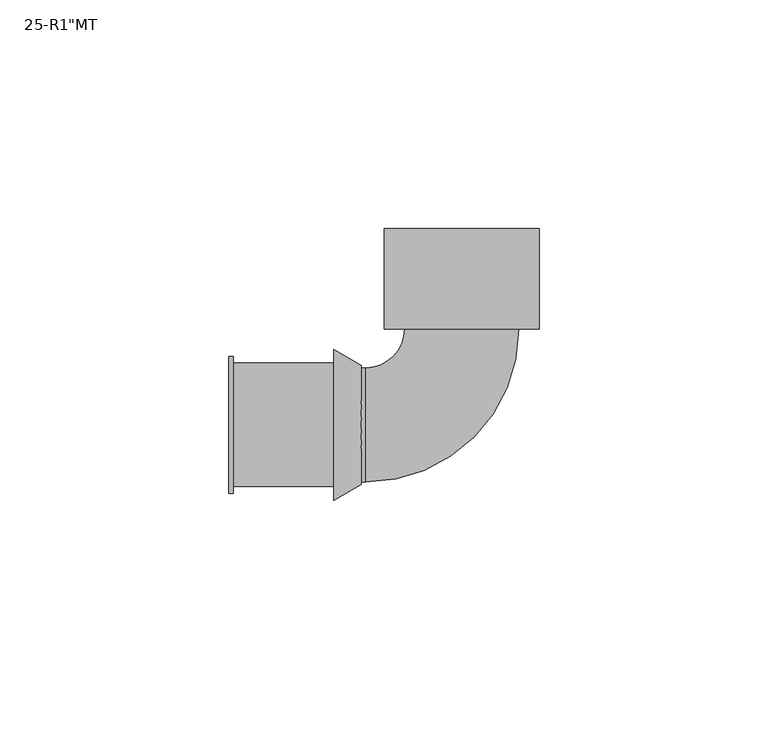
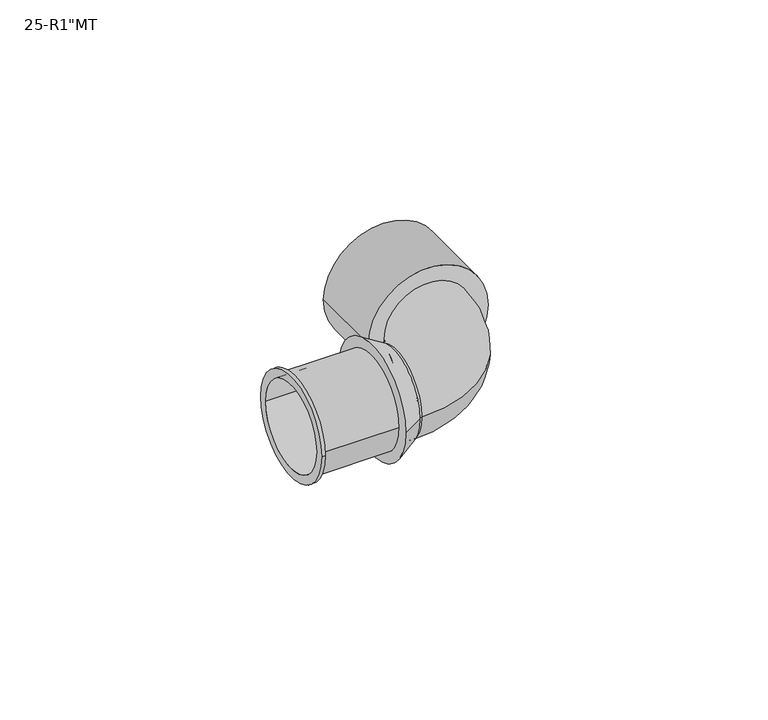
"""IFC4 building model written with IfcOpenShell, lengths in millimetres: pipe fitting geometry."""

import ifcopenshell
import ifcopenshell.guid

model = None  # the IFC model being written
_history = None  # IfcOwnerHistory: only IFC2X3 demands one
_inside = {}  # id of a spatial element -> (the spatial element, [elements in it])
_under = {}  # id of a project, library or spatial element -> (it, [spatial elements below it])
_declared = {}  # id of a project -> (the project, [libraries it declares])
_typed = {}  # id of a type object -> (the type object, [elements of that type])
_made_of = {}  # id of a material, layer set ... -> (it, [elements and type objects made of it])


def new_model(schema):
    """Start an empty IFC model of exactly this schema.

    Asked for "IFC4X3", IfcOpenShell would pick the latest addendum, in which some entities
    have other attributes; the version numbers below select the first issue.
    IFC2X3 requires an IfcOwnerHistory on every rooted entity: one is made here for all.
    """
    global model, _history
    if schema == "IFC4X3":
        model = ifcopenshell.file(schema_version=(4, 3, 0, 0))
    else:
        model = ifcopenshell.file(schema=schema)
    _inside.clear()
    _under.clear()
    _declared.clear()
    _typed.clear()
    _made_of.clear()
    _history = None
    if model.schema == "IFC2X3":
        org = make("IfcOrganization", Name="unknown")
        user = make(
            "IfcPersonAndOrganization",
            ThePerson=make("IfcPerson", FamilyName="unknown"),
            TheOrganization=org,
        )
        app = make(
            "IfcApplication",
            ApplicationDeveloper=org,
            Version="unknown",
            ApplicationFullName="unknown",
            ApplicationIdentifier="unknown",
        )
        _history = make(
            "IfcOwnerHistory",
            OwningUser=user,
            OwningApplication=app,
            ChangeAction="ADDED",
            CreationDate=0,
        )
    return model


def make(cls, **values):
    """One entity of the class cls with the attributes given. An attribute that is None is left unset."""
    return model.create_entity(
        cls, **{name: value for name, value in values.items() if value is not None}
    )


def rooted(cls, **values):
    """An entity with a GlobalId (a new one), such as an element, a storey or a relation."""
    return make(cls, GlobalId=ifcopenshell.guid.new(), OwnerHistory=_history, **values)


def si_unit(unit_type, name, prefix=None):
    """IfcSIUnit, for example si_unit("LENGTHUNIT", "METRE", prefix="MILLI")."""
    return make("IfcSIUnit", UnitType=unit_type, Prefix=prefix, Name=name)


def assignment(units):
    """IfcUnitAssignment: the units of a project."""
    return None if units is None else make("IfcUnitAssignment", Units=units)


def point(xyz):
    """IfcCartesianPoint."""
    return None if xyz is None else make("IfcCartesianPoint", Coordinates=xyz)


def direction(xyz):
    """IfcDirection."""
    return None if xyz is None else make("IfcDirection", DirectionRatios=xyz)


def frame(location, z_axis=None, x_axis=None):
    """IfcAxis2Placement3D, a coordinate frame: its origin and axes. An axis left out is left unset."""
    return make(
        "IfcAxis2Placement3D",
        Location=point(location),
        Axis=direction(z_axis),
        RefDirection=direction(x_axis),
    )


def frame_2d(location, x_axis=None):
    """IfcAxis2Placement2D, a coordinate frame in the plane: its origin and x axis."""
    return make(
        "IfcAxis2Placement2D", Location=point(location), RefDirection=direction(x_axis)
    )


def origin():
    """The frame at (0, 0, 0) with its axes left unset."""
    return frame((0.0, 0.0, 0.0))


def origin_2d():
    """The frame at (0, 0) in the plane with its x axis left unset."""
    return frame_2d((0.0, 0.0))


def place(relative_to, where):
    """IfcLocalPlacement: puts the frame where relative to a parent placement (None: the world)."""
    return make(
        "IfcLocalPlacement", PlacementRelTo=relative_to, RelativePlacement=where
    )


def context(
    kind, dimensions, precision=None, world=None, true_north=None, identifier=None
):
    """IfcGeometricRepresentationContext, for example the 3D "Model" context."""
    return make(
        "IfcGeometricRepresentationContext",
        ContextIdentifier=identifier,
        ContextType=kind,
        CoordinateSpaceDimension=dimensions,
        Precision=precision,
        WorldCoordinateSystem=world,
        TrueNorth=true_north,
    )


def project(units=None, contexts=None):
    """IfcProject with its units and contexts."""
    return rooted(
        "IfcProject",
        Name="project",
        RepresentationContexts=contexts,
        UnitsInContext=assignment(units),
    )


def spatial(cls, under=None, at=None, **own):
    """A site, building, storey or space (cls), placed at a placement, below another one or the project."""
    s = rooted(cls, ObjectPlacement=at, **own)
    if under is not None:
        _under.setdefault(under.id(), (under, []))[1].append(s)
    return s


def polyline(points):
    """IfcPolyline through the points."""
    return make("IfcPolyline", Points=[point(p) for p in points])


def circle_curve(where, radius):
    """IfcCircle in the frame where."""
    return make("IfcCircle", Position=where, Radius=radius)


def ellipse_curve(where, semi_axis1, semi_axis2):
    """IfcEllipse in the frame where."""
    return make(
        "IfcEllipse", Position=where, SemiAxis1=semi_axis1, SemiAxis2=semi_axis2
    )


def trimmed(basis, trim1, trim2, sense, master):
    """IfcTrimmedCurve: the piece of a basis curve between two trims."""
    return make(
        "IfcTrimmedCurve",
        BasisCurve=basis,
        Trim1=trim1,
        Trim2=trim2,
        SenseAgreement=sense,
        MasterRepresentation=master,
    )


def segment(curve, same_sense, transition):
    """IfcCompositeCurveSegment."""
    return make(
        "IfcCompositeCurveSegment",
        Transition=transition,
        SameSense=same_sense,
        ParentCurve=curve,
    )


def composite_curve(segments, self_intersect=None):
    """IfcCompositeCurve: segments joined end to end."""
    return make("IfcCompositeCurve", Segments=segments, SelfIntersect=self_intersect)


def outline(outer, holes=None, kind="AREA"):
    """IfcArbitraryClosedProfileDef: a profile drawn as a closed curve; with holes, ...WithVoids."""
    if holes is None:
        return make("IfcArbitraryClosedProfileDef", ProfileType=kind, OuterCurve=outer)
    return make(
        "IfcArbitraryProfileDefWithVoids",
        ProfileType=kind,
        OuterCurve=outer,
        InnerCurves=holes,
    )


def extrude(swept, where, along, depth):
    """IfcExtrudedAreaSolid: the profile swept, set in the frame where, extruded along a direction by depth."""
    return make(
        "IfcExtrudedAreaSolid",
        SweptArea=swept,
        Position=where,
        ExtrudedDirection=direction(along),
        Depth=depth,
    )


def shape(context_of_items, identifier, shape_type, items):
    """IfcShapeRepresentation: the items that make up one representation, for example the "Body"."""
    return make(
        "IfcShapeRepresentation",
        ContextOfItems=context_of_items,
        RepresentationIdentifier=identifier,
        RepresentationType=shape_type,
        Items=items,
    )


def source(mapping_origin, context_of_items, identifier, shape_type, items):
    """IfcRepresentationMap: a shape defined once, which mapped items show again and again."""
    return make(
        "IfcRepresentationMap",
        MappingOrigin=mapping_origin,
        MappedRepresentation=shape(context_of_items, identifier, shape_type, items),
    )


def transform(
    local_origin,
    x_axis=None,
    y_axis=None,
    z_axis=None,
    scale=None,
    scale2=None,
    scale3=None,
    uniform=True,
):
    """IfcCartesianTransformationOperator3D, or its non-uniform kind. x_axis, y_axis, z_axis: its Axis1, 2, 3."""
    if uniform:
        return make(
            "IfcCartesianTransformationOperator3D",
            Axis1=direction(x_axis),
            Axis2=direction(y_axis),
            LocalOrigin=point(local_origin),
            Scale=scale,
            Axis3=direction(z_axis),
        )
    return make(
        "IfcCartesianTransformationOperator3DnonUniform",
        Axis1=direction(x_axis),
        Axis2=direction(y_axis),
        LocalOrigin=point(local_origin),
        Scale=scale,
        Axis3=direction(z_axis),
        Scale2=scale2,
        Scale3=scale3,
    )


def mapped(mapping_source, mapping_target):
    """IfcMappedItem: shows the shape of a source again, moved by a transform."""
    return make(
        "IfcMappedItem", MappingSource=mapping_source, MappingTarget=mapping_target
    )


def made_of(thing, what):
    """Note that an element or type object is made of a material, layer set ...; save() writes the relation."""
    if what is not None:
        _made_of.setdefault(what.id(), (what, []))[1].append(thing)
    return thing


def element(
    cls,
    number,
    at=None,
    inside=None,
    cuts=None,
    type_object=None,
    material=None,
    context=None,
    identifier="Body",
    shape_type=None,
    held_by="IfcProductDefinitionShape",
    body=None,
    shapes=None,
    **own,
):
    """One element of the class cls, such as IfcWall. Its Tag is "e" and its number.

    at: its placement. inside: the storey or other place that contains it. cuts: it is an
    opening in that element (IfcRelVoidsElement). A single representation is given by context,
    identifier, shape_type and body (its items); several are given by shapes. held_by: the class
    of the entity that holds the representations. save() writes the other relations.
    """
    e = rooted(cls, Tag="e%d" % number, ObjectPlacement=at, **own)
    if body is not None:
        shapes = [shape(context, identifier, shape_type, body)]
    if shapes is not None:
        e.Representation = make(held_by, Representations=shapes)
    if inside is not None:
        _inside.setdefault(inside.id(), (inside, []))[1].append(e)
    if cuts is not None:
        rooted(
            "IfcRelVoidsElement", RelatingBuildingElement=cuts, RelatedOpeningElement=e
        )
    if type_object is not None:
        _typed.setdefault(type_object.id(), (type_object, []))[1].append(e)
    return made_of(e, material)


def aggregate(whole, parts):
    """IfcRelAggregates: a whole, such as a stair, and the parts it consists of."""
    return rooted("IfcRelAggregates", RelatingObject=whole, RelatedObjects=parts)


def save(model, path):
    """Write the relations noted so far, then the file.

    IfcRelAggregates (storeys below a building ...), IfcRelContainedInSpatialStructure (elements
    in a storey), IfcRelDefinesByType, IfcRelAssociatesMaterial and IfcRelDeclares: one each for
    every whole, place, type object, material and project.
    """
    for whole, parts in _under.values():
        aggregate(whole, parts)
    for where, things in _inside.values():
        rooted(
            "IfcRelContainedInSpatialStructure",
            RelatedElements=things,
            RelatingStructure=where,
        )
    for kind, things in _typed.values():
        rooted("IfcRelDefinesByType", RelatedObjects=things, RelatingType=kind)
    for what, things in _made_of.values():
        rooted("IfcRelAssociatesMaterial", RelatedObjects=things, RelatingMaterial=what)
    for by, libraries in _declared.values():
        rooted("IfcRelDeclares", RelatingContext=by, RelatedDefinitions=libraries)
    model.write(path)


def plane_surface(at):
    """IfcPlane: the flat surface through the origin of the frame at, square to its z axis."""
    return make("IfcPlane", Position=at)


def cylinder_surface(at, radius):
    """IfcCylindricalSurface: all points at the distance radius from the z axis of the frame at."""
    return make("IfcCylindricalSurface", Position=at, Radius=radius)


def revolved_surface(curve, axis_point, axis_direction):
    """IfcSurfaceOfRevolution: the curve turned about the line through axis_point along axis_direction."""
    return make(
        "IfcSurfaceOfRevolution",
        SweptCurve=make("IfcArbitraryOpenProfileDef", ProfileType="CURVE", Curve=curve),
        AxisPosition=make("IfcAxis1Placement", Location=point(axis_point), Axis=direction(axis_direction)),
    )


def advanced_brep(points, edges, surfaces, faces):
    """IfcAdvancedBrep: a solid bounded by faces that lie on surfaces and meet in shared edges.

    An edge is (start, end): straight between two places in points (the first is 0);
    or (start, end, curve); or (start, end, curve, False) where it runs against its curve.
    A face is (place in surfaces, loops), or (place, loops, False) where it looks against
    its surface's normal. A loop lists edges by number (the first is 1), with a minus sign
    where the edge is run from its end to its start. The first loop is the outer one.
    """
    corners = [point(p) for p in points]
    vertices = [make("IfcVertexPoint", VertexGeometry=c) for c in corners]
    made = []
    for start, end, *more in edges:
        made.append(
            make(
                "IfcEdgeCurve",
                EdgeStart=vertices[start],
                EdgeEnd=vertices[end],
                EdgeGeometry=more[0] if more else make("IfcPolyline", Points=[corners[start], corners[end]]),
                SameSense=more[1] if len(more) > 1 else True,
            )
        )
    hull = []
    for where, loops, *sense in faces:
        bounds = []
        for j, loop in enumerate(loops):
            ring = [make("IfcOrientedEdge", EdgeElement=made[abs(k) - 1], Orientation=k > 0) for k in loop]
            bounds.append(
                make(
                    "IfcFaceOuterBound" if j == 0 else "IfcFaceBound",
                    Bound=make("IfcEdgeLoop", EdgeList=ring),
                    Orientation=True,
                )
            )
        hull.append(make("IfcAdvancedFace", Bounds=bounds, FaceSurface=surfaces[where], SameSense=sense[0] if sense else True))
    return make("IfcAdvancedBrep", Outer=make("IfcClosedShell", CfsFaces=hull))


def pipe_fitting_2f187997(model_context):
    return source(origin(), model_context, "Body", "SolidModel", [
        advanced_brep(
        [(12.5, 21.0, 0.0), (-12.5, 21.0, 0.0), (-21.0, 12.5, 0.0), (-21.0, -12.5, 0.0), (-22.0, -12.5, 0.0), (-22.0, 12.5, 0.0)],
        [
            (0, 1, circle_curve(frame((0.0, 21.0, 0.0), z_axis=(0.0, 1.0, 0.0), x_axis=(-1.0, 0.0, 0.0)), 12.5)),
            (1, 0, circle_curve(frame((0.0, 21.0, 0.0), z_axis=(0.0, 1.0, 0.0), x_axis=(-1.0, 0.0, 0.0)), 12.5)),
            (1, 2, circle_curve(frame((-21.0, 21.0, 0.0), z_axis=(0.0, 0.0, -1.0), x_axis=(0.0, -1.0, 0.0)), 8.5)),
            (2, 3, circle_curve(frame((-21.0, 0.0, 0.0), z_axis=(1.0, 0.0, 0.0), x_axis=(0.0, 1.0, 0.0)), 12.5)),
            (3, 0, circle_curve(frame((-21.0, 21.0, 0.0), z_axis=(0.0, 0.0, 1.0), x_axis=(0.0, -1.0, 0.0)), 33.5)),
            (3, 2, circle_curve(frame((-21.0, 0.0, 0.0), z_axis=(1.0, 0.0, 0.0), x_axis=(0.0, 1.0, 0.0)), 12.5)),
            (4, 5, circle_curve(frame((-22.0, 0.0, 0.0), z_axis=(-1.0, 0.0, 0.0), x_axis=(0.0, 1.0, 0.0)), 12.5)),
            (5, 4, circle_curve(frame((-22.0, 0.0, 0.0), z_axis=(-1.0, 0.0, 0.0), x_axis=(0.0, 1.0, 0.0)), 12.5)),
            (4, 3),
            (2, 5),
        ],
        [
            plane_surface(frame((0.0, 21.0, 0.0), z_axis=(0.0, 1.0, 0.0), x_axis=(0.0, 0.0, 1.0))),
            revolved_surface(trimmed(ellipse_curve(frame((-21.0, 0.0, 0.0), z_axis=(-1.0, 0.0, 0.0), x_axis=(0.0, 1.0, 0.0)), 12.5, 12.5), [point((-21.0, -12.5, 0.0))], [point((-21.0, 12.5, 0.0))], True, "CARTESIAN"), (-21.0, 21.0, 0.0), (0.0, 0.0, 1.0)),
            revolved_surface(trimmed(ellipse_curve(frame((-21.0, 0.0, 0.0), z_axis=(-1.0, 0.0, 0.0), x_axis=(0.0, 1.0, 0.0)), 12.5, 12.5), [point((-21.0, 12.5, 0.0))], [point((-21.0, -12.5, 0.0))], True, "CARTESIAN"), (-21.0, 21.0, 0.0), (0.0, 0.0, 1.0)),
            plane_surface(frame((-22.0, 0.0, 0.0), z_axis=(-1.0, 0.0, 0.0), x_axis=(0.0, 0.0, 1.0))),
            cylinder_surface(frame((-22.0, 0.0, 0.0), z_axis=(-1.0, 0.0, 0.0), x_axis=(0.0, 1.0, 0.0)), 12.5),
        ],
        [
            (0, [[1, 2]]),
            (1, [[-2, 3, 4, 5]]),
            (2, [[-1, -5, 6, -3]]),
            (3, [[7, 8]]),
            (4, [[-7, 9, -4, 10]]),
            (4, [[-8, -10, -6, -9]]),
        ],
    ),
        extrude(outline(composite_curve([segment(trimmed(circle_curve(origin_2d(), 17.0), [point((0.0, -17.0))], [point((0.0, 17.0))], False, "CARTESIAN"), True, "CONTINUOUS"), segment(trimmed(circle_curve(origin_2d(), 17.0), [point((0.0, 17.0))], [point((0.0, -17.0))], False, "CARTESIAN"), True, "CONTINUOUS")], self_intersect=False), holes=[composite_curve([segment(trimmed(circle_curve(origin_2d(), 12.0), [point((0.0, -12.0))], [point((0.0, 12.0))], True, "CARTESIAN"), True, "CONTINUOUS"), segment(trimmed(circle_curve(origin_2d(), 12.0), [point((0.0, 12.0))], [point((0.0, -12.0))], True, "CARTESIAN"), True, "CONTINUOUS")], self_intersect=False)]), frame((0.0, 21.0, 0.0), z_axis=(0.0, 1.0, 0.0), x_axis=(0.0, 0.0, 1.0)), (0.0, 0.0, 1.0), 22.0),
        advanced_brep(
        [(-22.0, -13.0, 0.0), (-22.0, 13.0, 0.0), (-22.0, 12.5, 0.0), (-22.0, -12.5, 0.0), (-28.0, -16.5, 0.0), (-28.0, 16.5, 0.0), (-28.0, -12.5, 0.0), (-28.0, 12.5, 0.0)],
        [
            (0, 1, circle_curve(frame((-22.0, 0.0, 0.0), z_axis=(1.0, 0.0, 0.0), x_axis=(0.0, -1.0, 0.0)), 13.0)),
            (1, 0, circle_curve(frame((-22.0, 0.0, 0.0), z_axis=(1.0, 0.0, 0.0), x_axis=(0.0, 1.0, 0.0)), 13.0)),
            (2, 3, circle_curve(frame((-22.0, 0.0, 0.0), z_axis=(-1.0, 0.0, 0.0), x_axis=(0.0, 1.0, 0.0)), 12.5)),
            (3, 2, circle_curve(frame((-22.0, 0.0, 0.0), z_axis=(-1.0, 0.0, 0.0), x_axis=(0.0, 1.0, 0.0)), 12.5)),
            (4, 5, circle_curve(frame((-28.0, 0.0, 0.0), z_axis=(-1.0, 0.0, 0.0), x_axis=(0.0, 1.0, 0.0)), 16.5)),
            (5, 4, circle_curve(frame((-28.0, 0.0, 0.0), z_axis=(-1.0, 0.0, 0.0), x_axis=(0.0, -1.0, 0.0)), 16.5)),
            (6, 7, circle_curve(frame((-28.0, 0.0, 0.0), z_axis=(1.0, 0.0, 0.0), x_axis=(0.0, 1.0, 0.0)), 12.5)),
            (7, 6, circle_curve(frame((-28.0, 0.0, 0.0), z_axis=(1.0, 0.0, 0.0), x_axis=(0.0, 1.0, 0.0)), 12.5)),
            (0, 4),
            (5, 1),
            (2, 7),
            (6, 3),
        ],
        [
            plane_surface(frame((-22.0, 0.0, 0.0), z_axis=(1.0, 0.0, 0.0), x_axis=(0.0, 0.0, -1.0))),
            plane_surface(frame((-28.0, 0.0, 0.0), z_axis=(-1.0, 0.0, 0.0), x_axis=(0.0, 0.0, -1.0))),
            revolved_surface(polyline([(-22.0, -13.000000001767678, 0.0), (-28.0, -16.5, 0.0)]), (0.2857143, 0.0, 0.0), (-1.0, 0.0, 0.0)),
            revolved_surface(polyline([(-22.0, 13.000000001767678, 0.0), (-28.0, 16.5, 0.0)]), (0.2857143, 0.0, 0.0), (-1.0, 0.0, 0.0)),
            revolved_surface(polyline([(-22.0, 12.5, 0.0), (-28.0, 12.5, 0.0)]), (-28.0, 0.0, 0.0), (1.0, 0.0, 0.0)),
        ],
        [
            (0, [[1, 2], [3, 4]]),
            (1, [[5, 6], [7, 8]]),
            (2, [[-1, 9, -6, 10]]),
            (3, [[-2, -10, -5, -9]]),
            (4, [[11, -7, 12, -3]]),
            (4, [[-11, -4, -12, -8]]),
        ],
    ),
        advanced_brep(
        [(-51.0, -15.0, 0.0), (-51.0, 15.0, 0.0), (-51.0, -12.5, 0.0), (-51.0, 12.5, 0.0), (-28.0, -13.5, 0.0), (-28.0, 13.5, 0.0), (-28.0, -12.5, 0.0), (-28.0, 12.5, 0.0), (-50.0, 13.5, 0.0), (-50.0, -13.5, 0.0), (-50.0, -15.0, 0.0), (-50.0, 15.0, 0.0)],
        [
            (0, 1, circle_curve(frame((-51.0, 0.0, 0.0), z_axis=(-1.0, 0.0, 0.0), x_axis=(0.0, 1.0, 0.0)), 15.0)),
            (1, 0, circle_curve(frame((-51.0, 0.0, 0.0), z_axis=(-1.0, 0.0, 0.0), x_axis=(0.0, 1.0, 0.0)), 15.0)),
            (2, 3, circle_curve(frame((-51.0, 0.0, 0.0), z_axis=(1.0, 0.0, 0.0), x_axis=(0.0, 1.0, 0.0)), 12.5)),
            (3, 2, circle_curve(frame((-51.0, 0.0, 0.0), z_axis=(1.0, 0.0, 0.0), x_axis=(0.0, 1.0, 0.0)), 12.5)),
            (4, 5, circle_curve(frame((-28.0, 0.0, 0.0), z_axis=(1.0, 0.0, 0.0), x_axis=(0.0, 1.0, 0.0)), 13.5)),
            (5, 4, circle_curve(frame((-28.0, 0.0, 0.0), z_axis=(1.0, 0.0, 0.0), x_axis=(0.0, 1.0, 0.0)), 13.5)),
            (6, 7, circle_curve(frame((-28.0, 0.0, 0.0), z_axis=(-1.0, 0.0, 0.0), x_axis=(0.0, 1.0, 0.0)), 12.5)),
            (7, 6, circle_curve(frame((-28.0, 0.0, 0.0), z_axis=(-1.0, 0.0, 0.0), x_axis=(0.0, 1.0, 0.0)), 12.5)),
            (2, 6),
            (7, 3),
            (5, 8),
            (8, 9, circle_curve(frame((-50.0, 0.0, 0.0), z_axis=(1.0, 0.0, 0.0), x_axis=(0.0, 1.0, 0.0)), 13.5)),
            (9, 4),
            (9, 8, circle_curve(frame((-50.0, 0.0, 0.0), z_axis=(1.0, 0.0, 0.0), x_axis=(0.0, 1.0, 0.0)), 13.5)),
            (10, 11, circle_curve(frame((-50.0, 0.0, 0.0), z_axis=(1.0, 0.0, 0.0), x_axis=(0.0, 1.0, 0.0)), 15.0)),
            (11, 10, circle_curve(frame((-50.0, 0.0, 0.0), z_axis=(1.0, 0.0, 0.0), x_axis=(0.0, 1.0, 0.0)), 15.0)),
            (0, 10),
            (11, 1),
        ],
        [
            plane_surface(frame((-51.0, 0.0, 0.0), z_axis=(-1.0, 0.0, 0.0), x_axis=(0.0, 0.0, 1.0))),
            plane_surface(frame((-28.0, 0.0, 0.0), z_axis=(1.0, 0.0, 0.0), x_axis=(0.0, 0.0, 1.0))),
            revolved_surface(polyline([(-28.0, 12.5, 0.0), (-51.0, 12.5, 0.0)]), (-51.0, 0.0, 0.0), (1.0, 0.0, 0.0)),
            cylinder_surface(frame((-51.0, 0.0, 0.0), z_axis=(-1.0, 0.0, 0.0), x_axis=(0.0, 1.0, 0.0)), 13.5),
            plane_surface(frame((-50.0, 0.0, 0.0), z_axis=(1.0, 0.0, 0.0), x_axis=(0.0, 0.0, 1.0))),
            cylinder_surface(frame((-51.0, 0.0, 0.0), z_axis=(-1.0, 0.0, 0.0), x_axis=(0.0, 1.0, 0.0)), 15.0),
        ],
        [
            (0, [[1, 2], [3, 4]]),
            (1, [[5, 6], [7, 8]]),
            (2, [[-3, 9, -8, 10]]),
            (2, [[-4, -10, -7, -9]]),
            (3, [[-6, 11, 12, 13]]),
            (3, [[-5, -13, 14, -11]]),
            (4, [[15, 16], [-12, -14]]),
            (5, [[-1, 17, -16, 18]]),
            (5, [[-2, -18, -15, -17]]),
        ],
    ),
    ])


if __name__ == "__main__":
    model = new_model("IFC4")
    model_context = context("Model", 3, world=origin())
    ifc_project = project(units=[si_unit("LENGTHUNIT", "METRE", prefix="MILLI")], contexts=[model_context])
    site = spatial("IfcSite", under=ifc_project)
    building = spatial("IfcBuilding", under=site)
    placement = place(None, origin())
    pipe_fitting_shape = pipe_fitting_2f187997(model_context)
    element("IfcPipeFitting", 1, ObjectType="SuperPipe_ElbowAdapterMT_MAX_R : 25-R1\"MT", at=placement, inside=building, context=model_context, shape_type="MappedRepresentation", body=[
        mapped(pipe_fitting_shape, transform((0.0, 0.0, 0.0), x_axis=(1.0, 0.0, 0.0), y_axis=(0.0, 1.0, 0.0), z_axis=(0.0, 0.0, 1.0))),
    ])
    save(model, "model.ifc")
